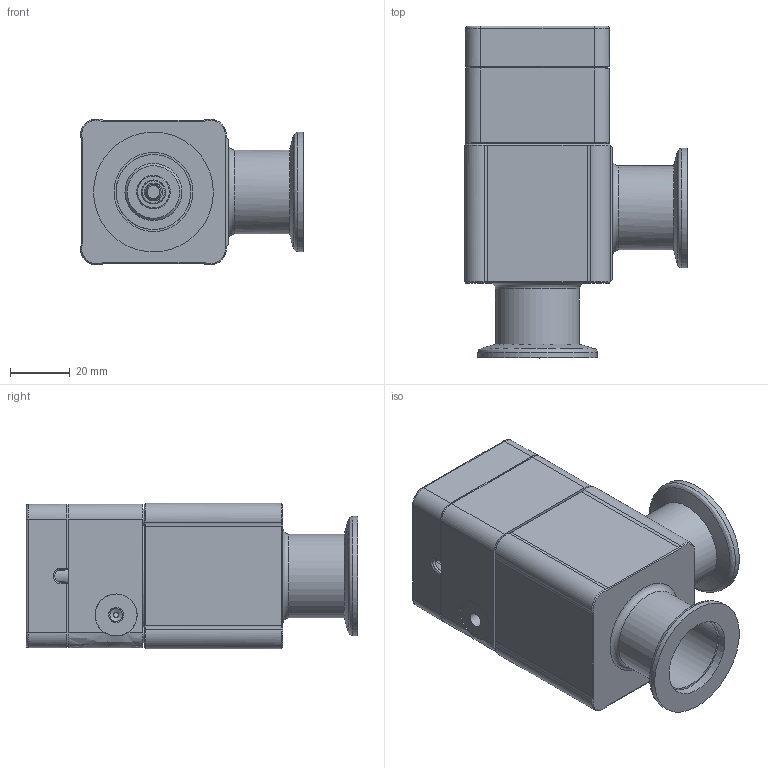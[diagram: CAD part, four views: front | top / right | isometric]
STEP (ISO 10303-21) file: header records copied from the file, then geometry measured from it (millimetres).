
FILE_DESCRIPTION((''),'2;1');
FILE_NAME('O:\MT\MT\Systeme\Cad\Datenexporte\www_vat_ch\239980.stp','2004-06-24T16:05:45',('User'),('SDRC'),'I-DEAS Master Series 9','UNIX','Yes');
FILE_SCHEMA(('CONFIG_CONTROL_DESIGN'));
Length unit declared in the file: millimetre
Assembly tree (10 placements, depth 0):
Bounding box: 74.3 x 110.6 x 48.6 mm (x, y, z)
Volume: 108928.2 mm3; surface area: 63151.7 mm2
Topology: 18 solids, 18 shells, 545 faces, 1312 edges, 833 vertices
Faces by surface type: bspline 545
Entity records: 16803 total; most frequent: CARTESIAN_POINT 9015, ORIENTED_EDGE 2304, EDGE_CURVE 1152, VERTEX_POINT 734, EDGE_LOOP 538, FACE_OUTER_BOUND 470, ADVANCED_FACE 470, QUASI_UNIFORM_CURVE 377
